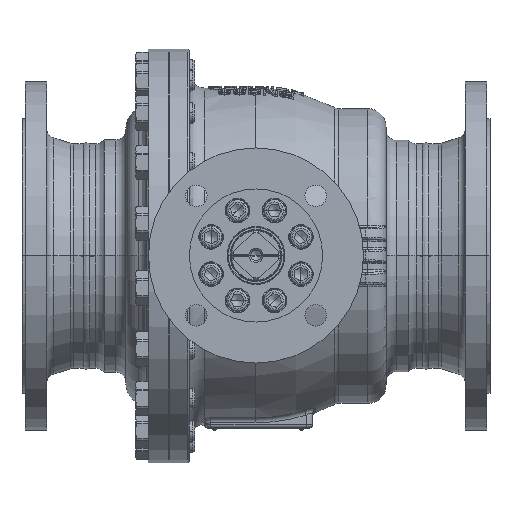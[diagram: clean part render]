
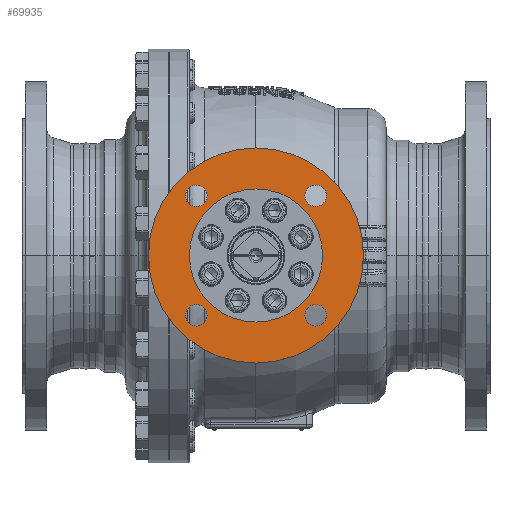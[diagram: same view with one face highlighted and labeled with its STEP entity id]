
A CAD part, top view. The second image highlights one B-rep face of the part: STEP entity #69935.
In plain terms, the highlighted planar face has unit normal (0, 0, 1).
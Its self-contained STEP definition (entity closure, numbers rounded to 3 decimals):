
#1209=CARTESIAN_POINT('',(0.,0.,274.));
#1210=DIRECTION('',(0.,0.,1.));
#1211=DIRECTION('',(0.,1.,0.));
#1212=AXIS2_PLACEMENT_3D('',#1209,#1210,#1211);
#1218=CARTESIAN_POINT('',(0.,0.,274.));
#1219=DIRECTION('',(0.,0.,-1.));
#1220=DIRECTION('',(0.,1.,0.));
#1221=AXIS2_PLACEMENT_3D('',#1218,#1219,#1220);
#1227=CARTESIAN_POINT('',(0.,0.,274.));
#1228=DIRECTION('',(0.,0.,1.));
#1229=DIRECTION('',(0.,1.,0.));
#1230=AXIS2_PLACEMENT_3D('',#1227,#1228,#1229);
#1232=CARTESIAN_POINT('',(0.,0.,274.));
#1233=DIRECTION('',(0.,0.,-1.));
#1234=DIRECTION('',(0.,1.,0.));
#1235=AXIS2_PLACEMENT_3D('',#1232,#1233,#1234);
#1237=CARTESIAN_POINT('',(58.336,58.336,274.));
#1238=DIRECTION('',(0.,0.,-1.));
#1239=DIRECTION('',(0.,-1.,0.));
#1240=AXIS2_PLACEMENT_3D('',#1237,#1238,#1239);
#1242=CARTESIAN_POINT('',(58.336,58.336,274.));
#1243=DIRECTION('',(0.,0.,-1.));
#1244=DIRECTION('',(0.,1.,0.));
#1245=AXIS2_PLACEMENT_3D('',#1242,#1243,#1244);
#1247=CARTESIAN_POINT('',(58.336,-58.336,274.));
#1248=DIRECTION('',(0.,0.,-1.));
#1249=DIRECTION('',(-1.,0.,0.));
#1250=AXIS2_PLACEMENT_3D('',#1247,#1248,#1249);
#1252=CARTESIAN_POINT('',(58.336,-58.336,274.));
#1253=DIRECTION('',(0.,0.,-1.));
#1254=DIRECTION('',(1.,0.,0.));
#1255=AXIS2_PLACEMENT_3D('',#1252,#1253,#1254);
#1257=CARTESIAN_POINT('',(-58.336,-58.336,274.));
#1258=DIRECTION('',(0.,0.,-1.));
#1259=DIRECTION('',(0.,1.,0.));
#1260=AXIS2_PLACEMENT_3D('',#1257,#1258,#1259);
#1262=CARTESIAN_POINT('',(-58.336,-58.336,274.));
#1263=DIRECTION('',(0.,0.,-1.));
#1264=DIRECTION('',(0.,-1.,0.));
#1265=AXIS2_PLACEMENT_3D('',#1262,#1263,#1264);
#1267=CARTESIAN_POINT('',(-58.336,58.336,274.));
#1268=DIRECTION('',(0.,0.,-1.));
#1269=DIRECTION('',(1.,0.,0.));
#1270=AXIS2_PLACEMENT_3D('',#1267,#1268,#1269);
#1272=CARTESIAN_POINT('',(-58.336,58.336,274.));
#1273=DIRECTION('',(0.,0.,-1.));
#1274=DIRECTION('',(-1.,0.,0.));
#1275=AXIS2_PLACEMENT_3D('',#1272,#1273,#1274);
#62218=CARTESIAN_POINT('',(0.,65.,274.));
#62220=VERTEX_POINT('',#62218);
#62222=CARTESIAN_POINT('',(0.,-65.,274.));
#62224=VERTEX_POINT('',#62222);
#62226=CARTESIAN_POINT('',(0.,105.,274.));
#62227=CARTESIAN_POINT('',(0.,-105.,274.));
#62228=VERTEX_POINT('',#62226);
#62229=VERTEX_POINT('',#62227);
#62282=CARTESIAN_POINT('',(58.336,47.836,274.));
#62283=CARTESIAN_POINT('',(58.336,68.836,274.));
#62284=VERTEX_POINT('',#62282);
#62285=VERTEX_POINT('',#62283);
#62286=CARTESIAN_POINT('',(47.836,-58.336,274.));
#62287=CARTESIAN_POINT('',(68.836,-58.336,274.));
#62288=VERTEX_POINT('',#62286);
#62289=VERTEX_POINT('',#62287);
#62290=CARTESIAN_POINT('',(-58.336,-47.836,274.));
#62291=CARTESIAN_POINT('',(-58.336,-68.836,274.));
#62292=VERTEX_POINT('',#62290);
#62293=VERTEX_POINT('',#62291);
#62294=CARTESIAN_POINT('',(-47.836,58.336,274.));
#62295=CARTESIAN_POINT('',(-68.836,58.336,274.));
#62296=VERTEX_POINT('',#62294);
#62297=VERTEX_POINT('',#62295);
#69896=CARTESIAN_POINT('',(0.,0.,274.));
#69897=DIRECTION('',(0.,0.,1.));
#69898=DIRECTION('',(0.,1.,0.));
#69899=AXIS2_PLACEMENT_3D('',#69896,#69897,#69898);
#69900=PLANE('',#69899);
#69902=ORIENTED_EDGE('',*,*,#69901,.F.);
#69904=ORIENTED_EDGE('',*,*,#69903,.T.);
#69905=EDGE_LOOP('',(#69902,#69904));
#69906=FACE_OUTER_BOUND('',#69905,.F.);
#69907=ORIENTED_EDGE('',*,*,#69889,.F.);
#69908=ORIENTED_EDGE('',*,*,#69878,.T.);
#69909=EDGE_LOOP('',(#69907,#69908));
#69910=FACE_BOUND('',#69909,.F.);
#69912=ORIENTED_EDGE('',*,*,#69911,.F.);
#69914=ORIENTED_EDGE('',*,*,#69913,.F.);
#69915=EDGE_LOOP('',(#69912,#69914));
#69916=FACE_BOUND('',#69915,.F.);
#69918=ORIENTED_EDGE('',*,*,#69917,.F.);
#69920=ORIENTED_EDGE('',*,*,#69919,.F.);
#69921=EDGE_LOOP('',(#69918,#69920));
#69922=FACE_BOUND('',#69921,.F.);
#69924=ORIENTED_EDGE('',*,*,#69923,.F.);
#69926=ORIENTED_EDGE('',*,*,#69925,.F.);
#69927=EDGE_LOOP('',(#69924,#69926));
#69928=FACE_BOUND('',#69927,.F.);
#69930=ORIENTED_EDGE('',*,*,#69929,.F.);
#69932=ORIENTED_EDGE('',*,*,#69931,.F.);
#69933=EDGE_LOOP('',(#69930,#69932));
#69934=FACE_BOUND('',#69933,.F.);
#69935=ADVANCED_FACE('',(#69906,#69910,#69916,#69922,#69928,#69934),#69900,.T.);
#1213=CIRCLE('',#1212,65.);
#1222=CIRCLE('',#1221,65.);
#1231=CIRCLE('',#1230,105.);
#1236=CIRCLE('',#1235,105.);
#1241=CIRCLE('',#1240,10.5);
#1246=CIRCLE('',#1245,10.5);
#1251=CIRCLE('',#1250,10.5);
#1256=CIRCLE('',#1255,10.5);
#1261=CIRCLE('',#1260,10.5);
#1266=CIRCLE('',#1265,10.5);
#1271=CIRCLE('',#1270,10.5);
#1276=CIRCLE('',#1275,10.5);
#69878=EDGE_CURVE('',#62220,#62224,#1213,.T.);
#69889=EDGE_CURVE('',#62220,#62224,#1222,.T.);
#69901=EDGE_CURVE('',#62228,#62229,#1231,.T.);
#69903=EDGE_CURVE('',#62228,#62229,#1236,.T.);
#69911=EDGE_CURVE('',#62284,#62285,#1241,.T.);
#69913=EDGE_CURVE('',#62285,#62284,#1246,.T.);
#69917=EDGE_CURVE('',#62288,#62289,#1251,.T.);
#69919=EDGE_CURVE('',#62289,#62288,#1256,.T.);
#69923=EDGE_CURVE('',#62292,#62293,#1261,.T.);
#69925=EDGE_CURVE('',#62293,#62292,#1266,.T.);
#69929=EDGE_CURVE('',#62296,#62297,#1271,.T.);
#69931=EDGE_CURVE('',#62297,#62296,#1276,.T.);
